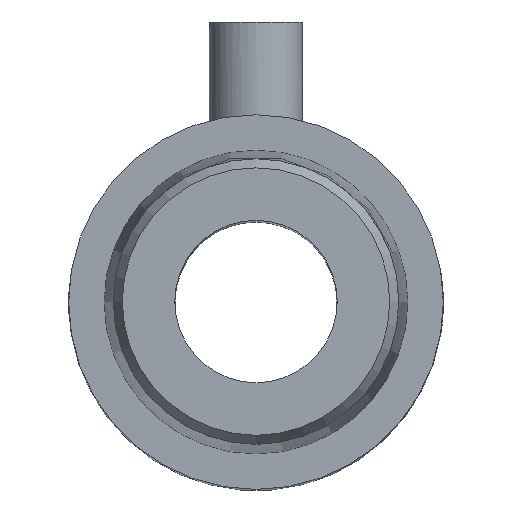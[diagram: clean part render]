
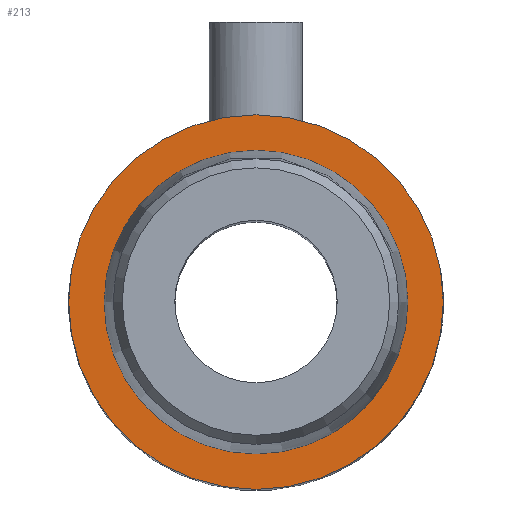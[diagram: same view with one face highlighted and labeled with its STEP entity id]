
A CAD part, top view. The second image highlights one B-rep face of the part: STEP entity #213.
In plain terms, the highlighted planar face has unit normal (0, 0, 1).
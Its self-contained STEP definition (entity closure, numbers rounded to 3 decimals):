
#5 = DIRECTION ( 'NONE',  ( 0., 0., 1. ) ) ;
#23 = CARTESIAN_POINT ( 'NONE',  ( 6., 0., 22. ) ) ;
#30 = FACE_OUTER_BOUND ( 'NONE', #422, .T. ) ;
#40 = DIRECTION ( 'NONE',  ( 1., 0., 0. ) ) ;
#58 = CARTESIAN_POINT ( 'NONE',  ( 4.864, 0., 22. ) ) ;
#89 = AXIS2_PLACEMENT_3D ( 'NONE', #242, #455, #372 ) ;
#128 = AXIS2_PLACEMENT_3D ( 'NONE', #391, #347, #146 ) ;
#146 = DIRECTION ( 'NONE',  ( 1., 0., 0. ) ) ;
#155 = ORIENTED_EDGE ( 'NONE', *, *, #184, .T. ) ;
#184 = EDGE_CURVE ( 'NONE', #191, #191, #350, .T. ) ;
#190 = CIRCLE ( 'NONE', #215, 4.864 ) ;
#191 = VERTEX_POINT ( 'NONE', #23 ) ;
#213 = ADVANCED_FACE ( 'NONE', ( #367, #30 ), #284, .F. ) ;
#215 = AXIS2_PLACEMENT_3D ( 'NONE', #423, #5, #40 ) ;
#242 = CARTESIAN_POINT ( 'NONE',  ( 0., 6., 22. ) ) ;
#261 = ORIENTED_EDGE ( 'NONE', *, *, #504, .F. ) ;
#284 = PLANE ( 'NONE',  #89 ) ;
#319 = EDGE_LOOP ( 'NONE', ( #261 ) ) ;
#347 = DIRECTION ( 'NONE',  ( 0., 0., 1. ) ) ;
#350 = CIRCLE ( 'NONE', #128, 6. ) ;
#367 = FACE_BOUND ( 'NONE', #319, .T. ) ;
#372 = DIRECTION ( 'NONE',  ( -1., 0., 0. ) ) ;
#391 = CARTESIAN_POINT ( 'NONE',  ( 0., 0., 22. ) ) ;
#422 = EDGE_LOOP ( 'NONE', ( #155 ) ) ;
#423 = CARTESIAN_POINT ( 'NONE',  ( 0., 0., 22. ) ) ;
#440 = VERTEX_POINT ( 'NONE', #58 ) ;
#455 = DIRECTION ( 'NONE',  ( 0., 0., -1. ) ) ;
#504 = EDGE_CURVE ( 'NONE', #440, #440, #190, .T. ) ;
